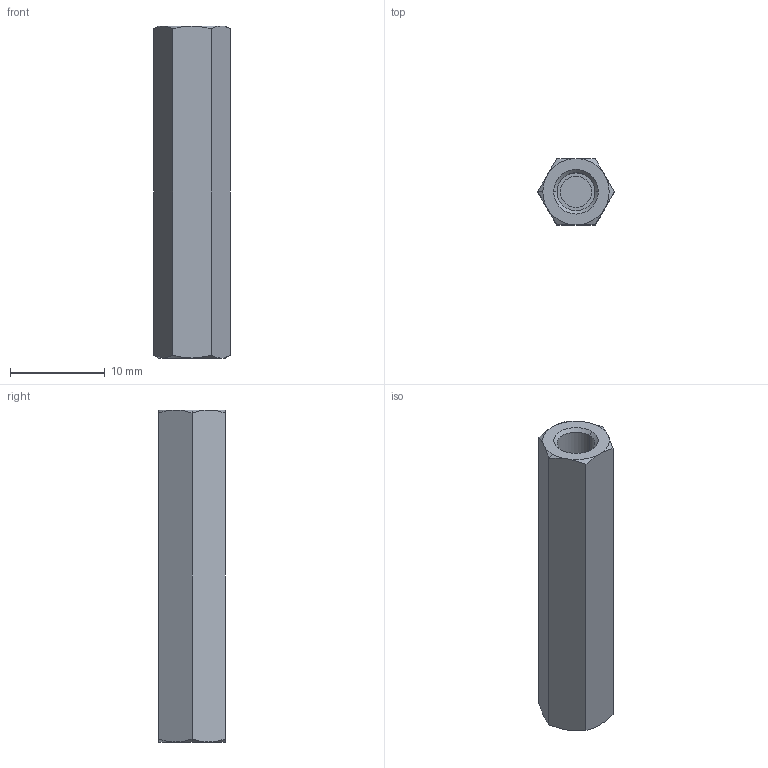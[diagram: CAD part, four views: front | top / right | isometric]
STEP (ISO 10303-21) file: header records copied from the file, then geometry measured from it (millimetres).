
FILE_DESCRIPTION (( 'STEP AP203' ), '1' );
FILE_NAME ('N0503.040-035-NP.step', '2025-02-27T14:43:19', ( '' ), ( '' ), 'SwSTEP 2.0', 'SolidWorks 2019', '' );
FILE_SCHEMA (( 'CONFIG_CONTROL_DESIGN' ));
Length unit declared in the file: millimetre
Products named in the file (1): N0503.040-035-NP
Bounding box: 8.08 x 7 x 35 mm (x, y, z)
Volume: 1210.9 mm3; surface area: 1199.2 mm2
Topology: 1 solids, 1 shells, 39 faces, 82 edges, 47 vertices
Faces by surface type: cone 20, plane 11, cylinder 8
Entity records: 1141 total; most frequent: CARTESIAN_POINT 263, DIRECTION 170, ORIENTED_EDGE 160, EDGE_CURVE 80, AXIS2_PLACEMENT_3D 74, VERTEX_POINT 47, EDGE_LOOP 43, ADVANCED_FACE 39
